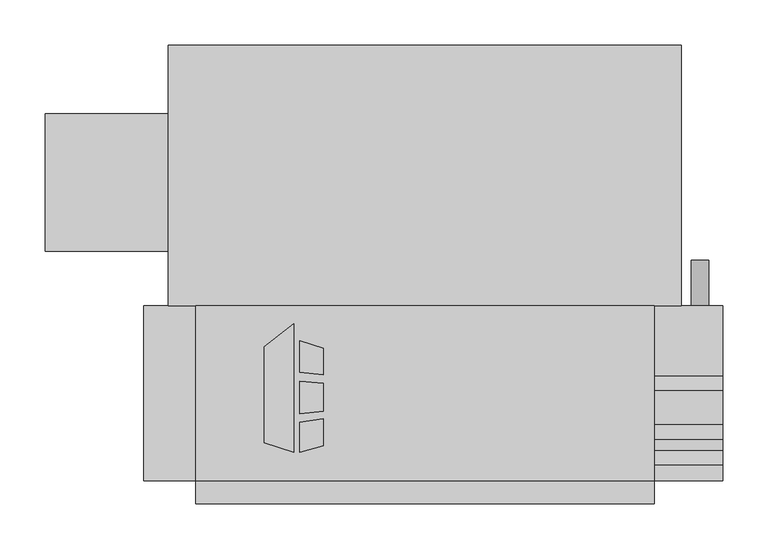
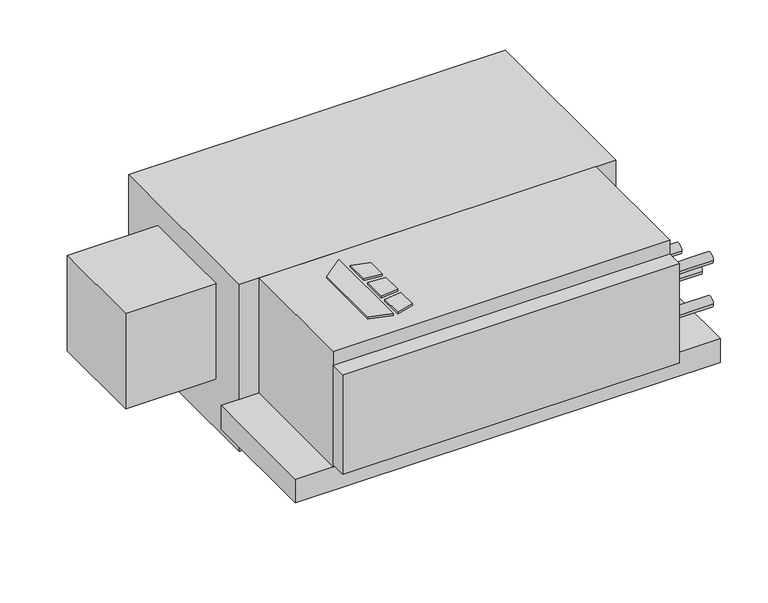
"""IFC4 building model written with IfcOpenShell, lengths in millimetres: proxy geometry, Concealed_Horizontal_Fan_Coil_Unit_With_Plenum_-_CPY_-_IEC_-_4-Pipe_RH_2022 : Size 03 - 277v/60Hz/1Ph - 4/1 Coil."""

from ifc_helpers import new_model, si_unit, point, frame, frame_2d, origin, origin_with_axes, place, context, project, spatial, polyline, circle_curve, trimmed, segment, composite_curve, outline, extrude, source, transform, mapped, element, save


def mechanical_equipment_30c2de15(model_context):
    return source(origin(), model_context, "Body", "SweptSolid", [
        extrude(outline(polyline([(-25.4, -186.6953476), (7.1582967, -161.2580184), (7.1582967, -303.2125), (-25.4, -292.9929201), (-25.4, -186.6953476)])), origin_with_axes(), (0.0, 0.0, 1.0), 3.175),
        extrude(outline(polyline([(13.9166297, -214.567352), (13.9166297, -180.0874379), (39.9980239, -188.2740115), (39.9980239, -217.7697446), (13.9166297, -214.567352)])), origin_with_axes(), (0.0, 0.0, 1.0), 3.175),
        extrude(outline(polyline([(39.9980239, -296.2240115), (13.9166297, -303.2125), (13.9166297, -269.9911996), (39.9980239, -266.4493564), (39.9980239, -296.2240115)])), origin_with_axes(), (0.0, 0.0, 1.0), 3.175),
        extrude(outline(polyline([(39.9980239, -226.8513277), (39.9980239, -258.101483), (13.9166297, -260.842748), (13.9166297, -224.9850378), (39.9980239, -226.8513277)])), origin_with_axes(), (0.0, 0.0, 1.0), 3.175),
        extrude(outline(composite_curve([segment(trimmed(circle_curve(frame_2d((-209.55, 457.2)), 9.525), [point((-209.55, 447.675))], [point((-209.55, 466.725))], False, "CARTESIAN"), True, "CONTINUOUS"), segment(trimmed(circle_curve(frame_2d((-209.55, 457.2)), 9.525), [point((-209.55, 466.725))], [point((-209.55, 447.675))], False, "CARTESIAN"), True, "CONTINUOUS")], self_intersect=False)), frame((0.0, -141.2875, 0.0), z_axis=(0.0, 1.0, 0.0), x_axis=(0.0, 0.0, 1.0)), (0.0, 0.0, 1.0), 50.8),
        extrude(outline(composite_curve([segment(trimmed(circle_curve(frame_2d((-309.5625, -69.85)), 7.9375), [point((-317.5, -69.85))], [point((-301.625, -69.85))], False, "CARTESIAN"), True, "CONTINUOUS"), segment(trimmed(circle_curve(frame_2d((-309.5625, -69.85)), 7.9375), [point((-301.625, -69.85))], [point((-317.5, -69.85))], False, "CARTESIAN"), True, "CONTINUOUS")], self_intersect=False)), frame((406.4, 0.0, 0.0), z_axis=(1.0, 0.0, 0.0), x_axis=(0.0, 1.0, 0.0)), (0.0, 0.0, 1.0), 76.2),
        extrude(outline(composite_curve([segment(trimmed(circle_curve(frame_2d((-309.5625, -139.7)), 7.9375), [point((-317.5, -139.7))], [point((-301.625, -139.7))], False, "CARTESIAN"), True, "CONTINUOUS"), segment(trimmed(circle_curve(frame_2d((-309.5625, -139.7)), 7.9375), [point((-301.625, -139.7))], [point((-317.5, -139.7))], False, "CARTESIAN"), True, "CONTINUOUS")], self_intersect=False)), frame((406.4, 0.0, 0.0), z_axis=(1.0, 0.0, 0.0), x_axis=(0.0, 1.0, 0.0)), (0.0, 0.0, 1.0), 76.2),
        extrude(outline(composite_curve([segment(trimmed(circle_curve(frame_2d((-227.0125, -104.775)), 7.9375), [point((-234.95, -104.775))], [point((-219.075, -104.775))], False, "CARTESIAN"), True, "CONTINUOUS"), segment(trimmed(circle_curve(frame_2d((-227.0125, -104.775)), 7.9375), [point((-219.075, -104.775))], [point((-234.95, -104.775))], False, "CARTESIAN"), True, "CONTINUOUS")], self_intersect=False)), frame((406.4, 0.0, 0.0), z_axis=(1.0, 0.0, 0.0), x_axis=(0.0, 1.0, 0.0)), (0.0, 0.0, 1.0), 76.2),
        extrude(outline(composite_curve([segment(trimmed(circle_curve(frame_2d((-280.9875, -104.775)), 7.9375), [point((-288.925, -104.775))], [point((-273.05, -104.775))], False, "CARTESIAN"), True, "CONTINUOUS"), segment(trimmed(circle_curve(frame_2d((-280.9875, -104.775)), 7.9375), [point((-273.05, -104.775))], [point((-288.925, -104.775))], False, "CARTESIAN"), True, "CONTINUOUS")], self_intersect=False)), frame((406.4, 0.0, 0.0), z_axis=(1.0, 0.0, 0.0), x_axis=(0.0, 1.0, 0.0)), (0.0, 0.0, 1.0), 76.2),
        extrude(outline(polyline([(406.4, -334.9625), (406.4, -360.3625), (-101.6, -360.3625), (-101.6, -334.9625), (406.4, -334.9625)])), frame((0.0, 0.0, -180.975), z_axis=(0.0, 0.0, 1.0), x_axis=(1.0, 0.0, 0.0)), (0.0, 0.0, 1.0), 158.75),
        extrude(outline(polyline([(406.4, -334.9625), (-101.6, -334.9625), (-101.6, -141.2875), (406.4, -141.2875), (406.4, -334.9625)])), frame((0.0, 0.0, -184.15), z_axis=(0.0, 0.0, 1.0), x_axis=(1.0, 0.0, 0.0)), (0.0, 0.0, 1.0), 184.15),
        extrude(outline(polyline([(482.6, -141.2875), (482.6, -334.9625), (-158.75, -334.9625), (-158.75, -141.2875), (482.6, -141.2875)])), frame((0.0, 0.0, -222.25), z_axis=(0.0, 0.0, 1.0), x_axis=(1.0, 0.0, 0.0)), (0.0, 0.0, 1.0), 38.1),
        extrude(outline(polyline([(-268.2875, -80.9625), (-268.2875, 71.4375), (-131.7625, 71.4375), (-131.7625, -80.9625), (-268.2875, -80.9625)])), frame((0.0, 0.0, -187.325), z_axis=(0.0, 0.0, 1.0), x_axis=(1.0, 0.0, 0.0)), (0.0, 0.0, 1.0), 152.4),
        extrude(outline(polyline([(-131.7625, 147.6375), (436.5625, 147.6375), (436.5625, -141.2875), (-131.7625, -141.2875), (-131.7625, 147.6375)])), frame((0.0, 0.0, -266.7), z_axis=(0.0, 0.0, 1.0), x_axis=(1.0, 0.0, 0.0)), (0.0, 0.0, 1.0), 266.7),
    ])


if __name__ == "__main__":
    model = new_model("IFC4")
    model_context = context("Model", 3, world=origin())
    ifc_project = project(units=[si_unit("LENGTHUNIT", "METRE", prefix="MILLI")], contexts=[model_context])
    site = spatial("IfcSite", under=ifc_project)
    building = spatial("IfcBuilding", under=site)
    placement = place(None, origin())
    mechanical_equipment_shape = mechanical_equipment_30c2de15(model_context)
    element("IfcBuildingElementProxy", 1, Name="Concealed_Horizontal_Fan_Coil_Unit_With_Plenum_-_CPY_-_IEC_-_4-Pipe_RH_2022 : Size 03 - 277v/60Hz/1Ph - 4/1 Coil", ObjectType="Concealed_Horizontal_Fan_Coil_Unit_With_Plenum_-_CPY_-_IEC_-_4-Pipe_RH_2022 : Size 03 - 277v/60Hz/1Ph - 4/1 Coil", at=placement, inside=building, context=model_context, shape_type="MappedRepresentation", body=[
        mapped(mechanical_equipment_shape, transform((0.0, 0.0, 0.0), x_axis=(1.0, 0.0, 0.0), y_axis=(0.0, 1.0, 0.0), z_axis=(0.0, 0.0, 1.0))),
    ])
    save(model, "model.ifc")
